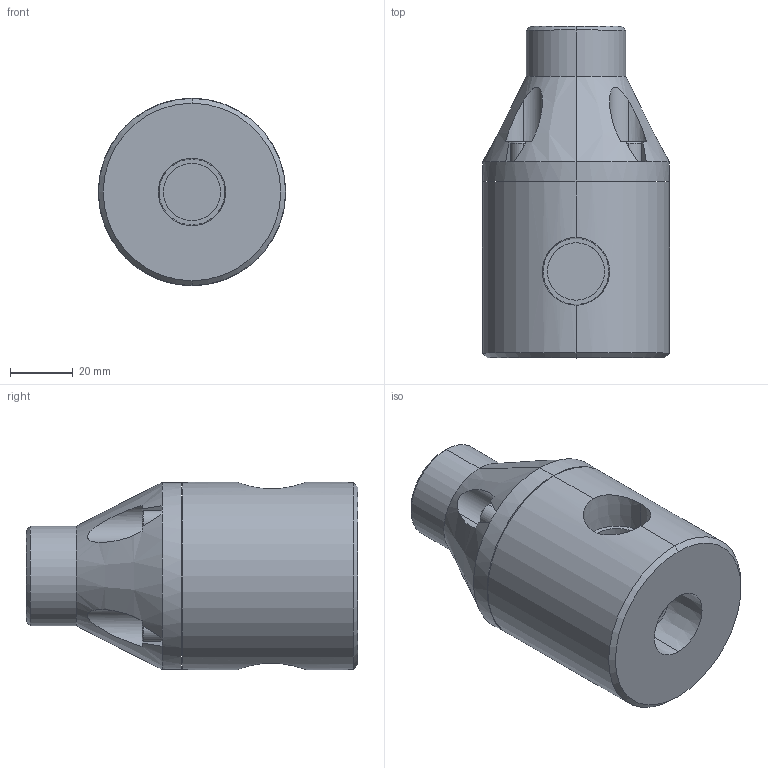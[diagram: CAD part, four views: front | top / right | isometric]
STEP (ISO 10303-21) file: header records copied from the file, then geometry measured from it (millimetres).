
FILE_DESCRIPTION (( 'STEP AP203' ), '1' );
FILE_NAME ('MPR0500PSOC.STEP', '2015-03-19T10:31:00', ( 'Dan Bernard' ), ( '' ), 'SwSTEP 2.0', 'SolidWorks 2008', '' );
FILE_SCHEMA (( 'CONFIG_CONTROL_DESIGN' ));
Length unit declared in the file: inch
Products named in the file (1): MPR0500PSOC
Bounding box: 59.44 x 105.41 x 59.44 mm (x, y, z)
Volume: 211114.2 mm3; surface area: 28719.5 mm2
Topology: 1 solids, 1 shells, 130 faces, 308 edges, 196 vertices
Faces by surface type: plane 74, cylinder 32, cone 24
Entity records: 4183 total; most frequent: CARTESIAN_POINT 1057, DIRECTION 646, ORIENTED_EDGE 616, EDGE_CURVE 308, AXIS2_PLACEMENT_3D 229, VERTEX_POINT 196, VECTOR 188, LINE 188
